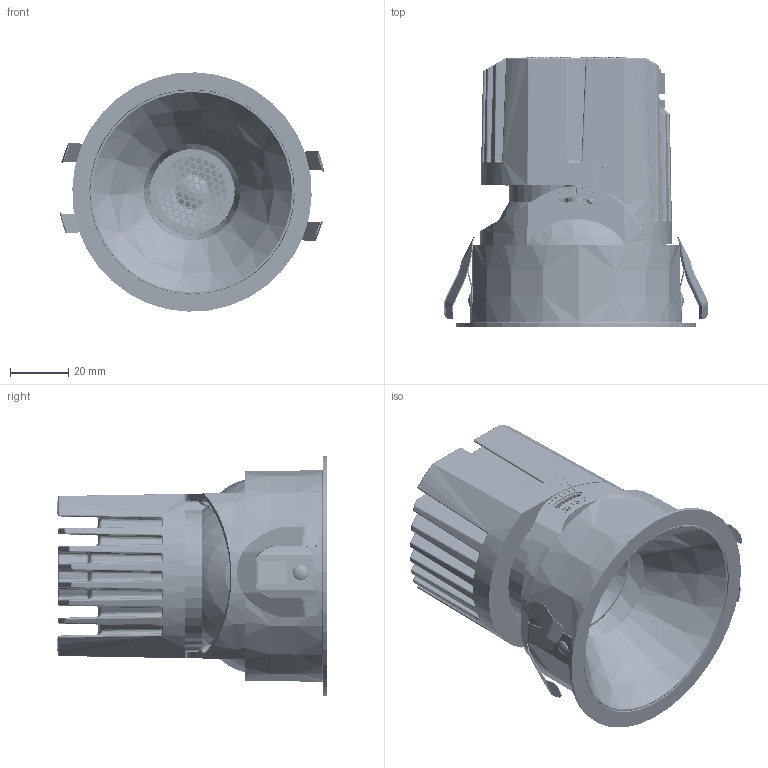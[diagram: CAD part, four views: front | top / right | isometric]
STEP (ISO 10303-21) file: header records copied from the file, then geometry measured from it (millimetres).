
FILE_DESCRIPTION (( 'STEP AP203' ), '1' );
FILE_NAME ('装配体1.STEP', '2024-08-15T03:41:54', ( '微软用户' ), ( '微软中国' ), 'SwSTEP 2.0', 'SolidWorks 2024', '' );
FILE_SCHEMA (( 'CONFIG_CONTROL_DESIGN' ));
Length unit declared in the file: millimetre
Products named in the file (24): 爆款酒店灯塑料环上盖; 爆款酒店灯塑料环; 3弹珠; 70西朗德杯; 75欧陆固定环组件; 防水接头C; 内环7度12度; 指标; 爆款酒店灯蜂窝网; 弹片02; 摆动件; 卡簧; 圆形有边外环; 装配体1; 散热器; 防水接头D; 连接环; 圆形有边外环组件; 防水接头A; JY-035A 旋扣; M8防水接头; 内六角盘头螺丝; 铆钉; 防水接头B
Assembly tree (29 placements, depth 3):
  装配体1
    圆形有边外环组件
      圆形有边外环
      弹片02  x2
      铆钉  x2
    摆动件
    连接环
    卡簧
    3弹珠  x3
    指标  x2
    70西朗德杯
    JY-035A 旋扣
    散热器
    M8防水接头
      防水接头B
      防水接头C
      防水接头A
      防水接头D
    内六角盘头螺丝  x2
    内环7度12度
    75欧陆固定环组件
      爆款酒店灯塑料环
      爆款酒店灯塑料环上盖
      爆款酒店灯蜂窝网
Bounding box: 90.62 x 92.3 x 81.96 mm (x, y, z)
Volume: 134570.5 mm3; surface area: 120980.3 mm2
Topology: 28 solids, 28 shells, 6051 faces, 15190 edges, 9095 vertices
Faces by surface type: bspline 2100, plane 1473, cylinder 862, cone 597, torus 538, sphere 481
Entity records: 265058 total; most frequent: CARTESIAN_POINT 138967, ORIENTED_EDGE 29228, DIRECTION 21427, EDGE_CURVE 14614, VERTEX_POINT 8841, AXIS2_PLACEMENT_3D 8573, EDGE_LOOP 6187, FACE_OUTER_BOUND 5888
